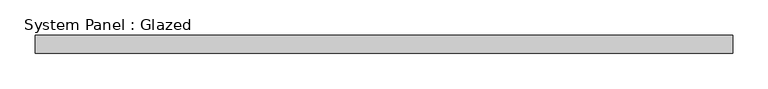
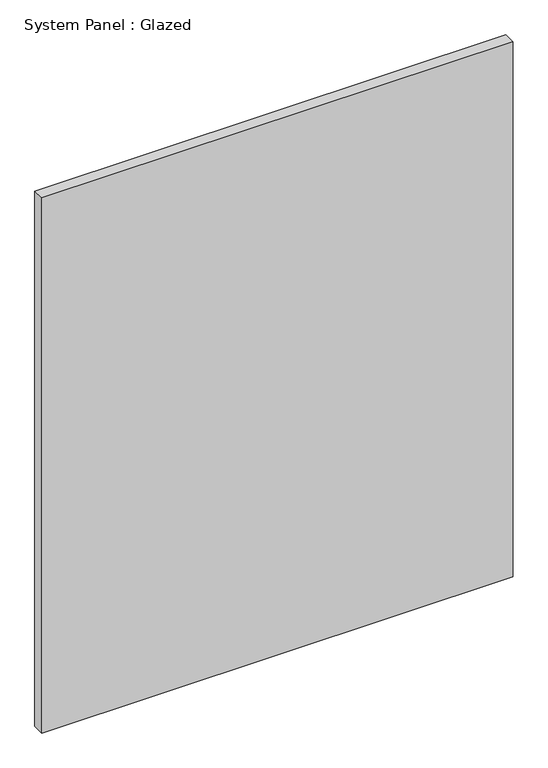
"""IFC4 building model written with IfcOpenShell, lengths in millimetres: plate geometry, System Panel : Glazed."""

from ifc_helpers import new_model, si_unit, origin, origin_with_axes, place, context, project, spatial, polyline, outline, extrude, source, transform, mapped, element, save


def system_panel_glazed_40caf1cd(model_context):
    return source(origin(), model_context, "Body", "SweptSolid", [
        extrude(outline(polyline([(494.7708333, -44.45), (-494.7708333, -44.45), (-494.7708333, -19.05), (494.7708333, -19.05), (494.7708333, -44.45)])), origin_with_axes(), (0.0, 0.0, 1.0), 1187.45),
    ])


if __name__ == "__main__":
    model = new_model("IFC4")
    model_context = context("Model", 3, world=origin())
    ifc_project = project(units=[si_unit("LENGTHUNIT", "METRE", prefix="MILLI")], contexts=[model_context])
    site = spatial("IfcSite", under=ifc_project)
    building = spatial("IfcBuilding", under=site)
    placement = place(None, origin())
    system_panel_glazed_shape = system_panel_glazed_40caf1cd(model_context)
    element("IfcPlate", 1, ObjectType="System Panel : Glazed", at=placement, inside=building, context=model_context, shape_type="MappedRepresentation", body=[
        mapped(system_panel_glazed_shape, transform((0.0, 0.0, 0.0), x_axis=(1.0, 0.0, 0.0), y_axis=(0.0, 1.0, 0.0), z_axis=(0.0, 0.0, 1.0))),
    ])
    save(model, "model.ifc")
